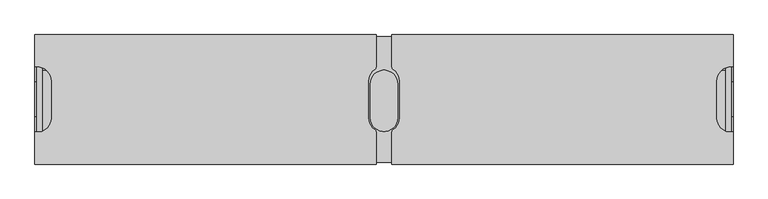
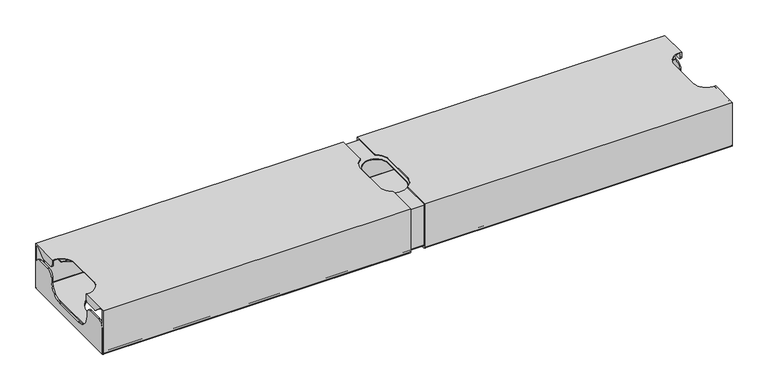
"""IFC4 building model written with IfcOpenShell, lengths in millimetres: furniture geometry, FREZZA_POP AD_Cable tray_for bench desk : Structure_ZGBI - Embossed White."""

from ifc_helpers import new_model, si_unit, frame, origin, place, context, project, spatial, polyline, circle_curve, source, transform, mapped, element, save
from ifc_brep_helpers import plane_surface, cylinder_surface, revolved_surface, advanced_brep


def furniture_ec0e8264(model_context):
    return source(origin(), model_context, "Body", "AdvancedBrep", [
        advanced_brep(
        [(440.0, 52.5, 432.7), (440.0, 52.5, 364.2), (440.0, 50.0, 361.7), (440.0, -129.0, 361.7), (440.0, -131.5, 364.2), (440.0, -131.5, 432.7), (440.0, -88.4089023, 432.7), (440.0, -88.4089023, 431.7), (440.0, -129.5, 431.7), (440.0, -129.5, 364.2), (440.0, -129.0, 363.7), (440.0, 50.0, 363.7), (440.0, 50.5, 364.2), (440.0, 50.5, 431.7), (440.0, 5.4089023, 431.7), (440.0, 5.4089023, 432.7), (1440.0, -131.5, 432.7), (1440.0, -131.5, 364.2), (1440.0, -129.0, 361.7), (1440.0, 50.0, 361.7), (1440.0, 52.5, 364.2), (1440.0, 52.5, 432.7), (1440.0, 5.4089023, 432.7), (1440.0, 5.4089023, 431.7), (1440.0, 50.5, 431.7), (1440.0, 50.5, 364.2), (1440.0, 50.0, 363.7), (1440.0, -129.0, 363.7), (1440.0, -129.5, 364.2), (1440.0, -129.5, 431.7), (1440.0, -88.4089023, 431.7), (1440.0, -88.4089023, 432.7), (1438.1818182, -86.4171839, 432.7), (1420.0, -66.5, 432.7), (1420.0, -16.5, 432.7), (1438.1818182, 3.4171839, 432.7), (441.8181818, 3.4171839, 432.7), (460.0, -16.5, 432.7), (460.0, -66.5, 432.7), (441.8181818, -86.4171839, 432.7), (920.0, -66.5, 432.7), (920.0, -16.5, 432.7), (960.0, -16.5, 432.7), (960.0, -66.5, 432.7), (500.0, 0.5, 361.7), (500.0, -79.5, 361.7), (1380.0, -79.5, 361.7), (1380.0, 0.5, 361.7), (1438.1818182, 3.4171839, 431.7), (1420.0, -16.5, 431.7), (1420.0, -66.5, 431.7), (1438.1818182, -86.4171839, 431.7), (441.8181818, -86.4171839, 431.7), (460.0, -66.5, 431.7), (460.0, -16.5, 431.7), (441.8181818, 3.4171839, 431.7), (920.0, -16.5, 431.7), (920.0, -66.5, 431.7), (960.0, -66.5, 431.7), (960.0, -16.5, 431.7), (500.0, -79.5, 363.7), (500.0, 0.5, 363.7), (1380.0, 0.5, 363.7), (1380.0, -79.5, 363.7)],
        [
            (0, 1),
            (1, 2, circle_curve(frame((440.0, 50.0, 364.2), z_axis=(-1.0, 0.0, 0.0), x_axis=(0.0, 1.0, 0.0)), 2.5)),
            (2, 3),
            (3, 4, circle_curve(frame((440.0, -129.0, 364.2), z_axis=(-1.0, 0.0, 0.0), x_axis=(0.0, 1.0, 0.0)), 2.5)),
            (4, 5),
            (5, 6),
            (6, 7),
            (7, 8),
            (8, 9),
            (9, 10, circle_curve(frame((440.0, -129.0, 364.2), z_axis=(1.0, 0.0, 0.0), x_axis=(0.0, 1.0, 0.0)), 0.5)),
            (10, 11),
            (11, 12, circle_curve(frame((440.0, 50.0, 364.2), z_axis=(1.0, 0.0, 0.0), x_axis=(0.0, 1.0, 0.0)), 0.5)),
            (12, 13),
            (13, 14),
            (14, 15),
            (15, 0),
            (16, 17),
            (17, 18, circle_curve(frame((1440.0, -129.0, 364.2), z_axis=(1.0, 0.0, 0.0), x_axis=(0.0, 1.0, 0.0)), 2.5)),
            (18, 19),
            (19, 20, circle_curve(frame((1440.0, 50.0, 364.2), z_axis=(1.0, 0.0, 0.0), x_axis=(0.0, 1.0, 0.0)), 2.5)),
            (20, 21),
            (21, 22),
            (22, 23),
            (23, 24),
            (24, 25),
            (25, 26, circle_curve(frame((1440.0, 50.0, 364.2), z_axis=(-1.0, 0.0, 0.0), x_axis=(0.0, 1.0, 0.0)), 0.5)),
            (26, 27),
            (27, 28, circle_curve(frame((1440.0, -129.0, 364.2), z_axis=(-1.0, 0.0, 0.0), x_axis=(0.0, 1.0, 0.0)), 0.5)),
            (28, 29),
            (29, 30),
            (30, 31),
            (31, 16),
            (5, 16),
            (31, 32, circle_curve(frame((1438.0, -88.4089023, 432.7), z_axis=(0.0, 0.0, 1.0), x_axis=(-1.0, 0.0, 0.0)), 2.0)),
            (32, 33, circle_curve(frame((1440.0, -66.5, 432.7), z_axis=(0.0, 0.0, -1.0), x_axis=(-1.0, 0.0, 0.0)), 20.0)),
            (33, 34),
            (34, 35, circle_curve(frame((1440.0, -16.5, 432.7), z_axis=(0.0, 0.0, -1.0), x_axis=(-1.0, 0.0, 0.0)), 20.0)),
            (35, 22, circle_curve(frame((1438.0, 5.4089023, 432.7), z_axis=(0.0, 0.0, 1.0), x_axis=(-1.0, 0.0, 0.0)), 2.0)),
            (21, 0),
            (15, 36, circle_curve(frame((442.0, 5.4089023, 432.7), z_axis=(0.0, 0.0, 1.0), x_axis=(-1.0, 0.0, 0.0)), 2.0)),
            (36, 37, circle_curve(frame((440.0, -16.5, 432.7), z_axis=(0.0, 0.0, -1.0), x_axis=(-1.0, 0.0, 0.0)), 20.0)),
            (37, 38),
            (38, 39, circle_curve(frame((440.0, -66.5, 432.7), z_axis=(0.0, 0.0, -1.0), x_axis=(-1.0, 0.0, 0.0)), 20.0)),
            (39, 6, circle_curve(frame((442.0, -88.4089023, 432.7), z_axis=(0.0, 0.0, 1.0), x_axis=(-1.0, 0.0, 0.0)), 2.0)),
            (40, 41),
            (41, 42, circle_curve(frame((940.0, -16.5, 432.7), z_axis=(0.0, 0.0, -1.0), x_axis=(-1.0, 0.0, 0.0)), 20.0)),
            (42, 43),
            (43, 40, circle_curve(frame((940.0, -66.5, 432.7), z_axis=(0.0, 0.0, -1.0), x_axis=(-1.0, 0.0, 0.0)), 20.0)),
            (20, 1),
            (19, 2),
            (18, 3),
            (44, 45, circle_curve(frame((500.0, -39.5, 361.7), z_axis=(0.0, 0.0, 1.0), x_axis=(-1.0, 0.0, 0.0)), 40.0)),
            (45, 44, circle_curve(frame((500.0, -39.5, 361.7), z_axis=(0.0, 0.0, 1.0), x_axis=(-1.0, 0.0, 0.0)), 40.0)),
            (46, 47, circle_curve(frame((1380.0, -39.5, 361.7), z_axis=(0.0, 0.0, 1.0), x_axis=(-1.0, 0.0, 0.0)), 40.0)),
            (47, 46, circle_curve(frame((1380.0, -39.5, 361.7), z_axis=(0.0, 0.0, 1.0), x_axis=(-1.0, 0.0, 0.0)), 40.0)),
            (17, 4),
            (13, 24),
            (23, 48, circle_curve(frame((1438.0, 5.4089023, 431.7), z_axis=(0.0, 0.0, -1.0), x_axis=(-1.0, 0.0, 0.0)), 2.0)),
            (48, 49, circle_curve(frame((1440.0, -16.5, 431.7), z_axis=(0.0, 0.0, 1.0), x_axis=(-1.0, 0.0, 0.0)), 20.0)),
            (49, 50),
            (50, 51, circle_curve(frame((1440.0, -66.5, 431.7), z_axis=(0.0, 0.0, 1.0), x_axis=(-1.0, 0.0, 0.0)), 20.0)),
            (51, 30, circle_curve(frame((1438.0, -88.4089023, 431.7), z_axis=(0.0, 0.0, -1.0), x_axis=(-1.0, 0.0, 0.0)), 2.0)),
            (29, 8),
            (7, 52, circle_curve(frame((442.0, -88.4089023, 431.7), z_axis=(0.0, 0.0, -1.0), x_axis=(-1.0, 0.0, 0.0)), 2.0)),
            (52, 53, circle_curve(frame((440.0, -66.5, 431.7), z_axis=(0.0, 0.0, 1.0), x_axis=(-1.0, 0.0, 0.0)), 20.0)),
            (53, 54),
            (54, 55, circle_curve(frame((440.0, -16.5, 431.7), z_axis=(0.0, 0.0, 1.0), x_axis=(-1.0, 0.0, 0.0)), 20.0)),
            (55, 14, circle_curve(frame((442.0, 5.4089023, 431.7), z_axis=(0.0, 0.0, -1.0), x_axis=(-1.0, 0.0, 0.0)), 2.0)),
            (56, 57),
            (57, 58, circle_curve(frame((940.0, -66.5, 431.7), z_axis=(0.0, 0.0, 1.0), x_axis=(-1.0, 0.0, 0.0)), 20.0)),
            (58, 59),
            (59, 56, circle_curve(frame((940.0, -16.5, 431.7), z_axis=(0.0, 0.0, 1.0), x_axis=(-1.0, 0.0, 0.0)), 20.0)),
            (28, 9),
            (27, 10),
            (26, 11),
            (60, 61, circle_curve(frame((500.0, -39.5, 363.7), z_axis=(0.0, 0.0, -1.0), x_axis=(-1.0, 0.0, 0.0)), 40.0)),
            (61, 60, circle_curve(frame((500.0, -39.5, 363.7), z_axis=(0.0, 0.0, -1.0), x_axis=(-1.0, 0.0, 0.0)), 40.0)),
            (62, 63, circle_curve(frame((1380.0, -39.5, 363.7), z_axis=(0.0, 0.0, -1.0), x_axis=(-1.0, 0.0, 0.0)), 40.0)),
            (63, 62, circle_curve(frame((1380.0, -39.5, 363.7), z_axis=(0.0, 0.0, -1.0), x_axis=(-1.0, 0.0, 0.0)), 40.0)),
            (25, 12),
            (40, 57),
            (56, 41),
            (43, 58),
            (42, 59),
            (32, 51),
            (50, 33),
            (35, 48),
            (34, 49),
            (37, 54),
            (53, 38),
            (36, 55),
            (39, 52),
            (60, 45),
            (44, 61),
            (62, 47),
            (46, 63),
        ],
        [
            plane_surface(frame((440.0, -39.5, 436.2), z_axis=(-1.0, 0.0, 0.0), x_axis=(0.0, 0.0, 1.0))),
            plane_surface(frame((1440.0, -39.5, 436.2), z_axis=(1.0, 0.0, 0.0), x_axis=(0.0, 0.0, 1.0))),
            plane_surface(frame((440.0, -131.5, 432.7), z_axis=(0.0, 0.0, 1.0), x_axis=(1.0, 0.0, 0.0))),
            plane_surface(frame((440.0, 52.5, 432.7), z_axis=(0.0, 1.0, 0.0), x_axis=(1.0, 0.0, 0.0))),
            cylinder_surface(frame((440.0, 50.0, 364.2), z_axis=(-1.0, 0.0, 0.0), x_axis=(0.0, 1.0, 0.0)), 2.5),
            plane_surface(frame((440.0, 50.0, 361.7), z_axis=(0.0, 0.0, -1.0), x_axis=(1.0, 0.0, 0.0))),
            cylinder_surface(frame((440.0, -129.0, 364.2), z_axis=(-1.0, 0.0, 0.0), x_axis=(0.0, 1.0, 0.0)), 2.5),
            plane_surface(frame((440.0, -131.5, 364.2), z_axis=(0.0, -1.0, 0.0), x_axis=(1.0, 0.0, 0.0))),
            plane_surface(frame((440.0, 50.5, 431.7), z_axis=(0.0, 0.0, -1.0), x_axis=(1.0, 0.0, 0.0))),
            plane_surface(frame((440.0, -129.5, 431.7), z_axis=(0.0, 1.0, 0.0), x_axis=(1.0, 0.0, 0.0))),
            revolved_surface(polyline([(1440.0, -128.5, 364.2), (440.0, -128.5, 364.2)]), (440.0, -129.0, 364.2), (1.0, 0.0, 0.0)),
            plane_surface(frame((440.0, -129.0, 363.7), z_axis=(0.0, 0.0, 1.0), x_axis=(1.0, 0.0, 0.0))),
            revolved_surface(polyline([(1440.0, 50.5, 364.2), (440.0, 50.5, 364.2)]), (440.0, 50.0, 364.2), (1.0, 0.0, 0.0)),
            plane_surface(frame((440.0, 50.5, 364.2), z_axis=(0.0, -1.0, 0.0), x_axis=(1.0, 0.0, 0.0))),
            plane_surface(frame((920.0, -16.5, 432.7), z_axis=(1.0, 0.0, 0.0), x_axis=(0.0, 0.0, -1.0))),
            revolved_surface(polyline([(920.0, -66.5, 432.7), (920.0, -66.5, 431.7)]), (940.0, -66.5, 431.7), (0.0, 0.0, 1.0)),
            plane_surface(frame((960.0, -66.5, 432.7), z_axis=(-1.0, 0.0, 0.0), x_axis=(0.0, 0.0, -1.0))),
            revolved_surface(polyline([(920.0, -16.5, 432.7), (920.0, -16.5, 431.7)]), (940.0, -16.5, 431.7), (0.0, 0.0, 1.0)),
            revolved_surface(polyline([(1420.0, -66.5, 432.7), (1420.0, -66.5, 431.7)]), (1440.0, -66.5, 436.2), (0.0, 0.0, 1.0)),
            cylinder_surface(frame((1438.0, -88.4089023, 436.2), z_axis=(0.0, 0.0, -1.0), x_axis=(-1.0, 0.0, 0.0)), 2.0),
            cylinder_surface(frame((1438.0, 5.4089023, 436.2), z_axis=(0.0, 0.0, -1.0), x_axis=(-1.0, 0.0, 0.0)), 2.0),
            revolved_surface(polyline([(1420.0, -16.5, 432.7), (1420.0, -16.5, 431.7)]), (1440.0, -16.5, 436.2), (0.0, 0.0, 1.0)),
            plane_surface(frame((1420.0, -16.5, 432.7), z_axis=(1.0, 0.0, 0.0), x_axis=(0.0, 0.0, -1.0))),
            plane_surface(frame((460.0, -66.5, 432.7), z_axis=(-1.0, 0.0, 0.0), x_axis=(0.0, 0.0, -1.0))),
            revolved_surface(polyline([(420.0, -16.5, 432.7), (420.0, -16.5, 431.7)]), (440.0, -16.5, 436.2), (0.0, 0.0, 1.0)),
            cylinder_surface(frame((442.0, 5.4089023, 436.2), z_axis=(0.0, 0.0, -1.0), x_axis=(-1.0, 0.0, 0.0)), 2.0),
            cylinder_surface(frame((442.0, -88.4089023, 436.2), z_axis=(0.0, 0.0, -1.0), x_axis=(-1.0, 0.0, 0.0)), 2.0),
            revolved_surface(polyline([(420.0, -66.5, 432.7), (420.0, -66.5, 431.7)]), (440.0, -66.5, 436.2), (0.0, 0.0, 1.0)),
            revolved_surface(polyline([(460.0, -39.5, 363.7), (460.0, -39.5, 361.7)]), (500.0, -39.5, 361.7), (0.0, 0.0, 1.0)),
            revolved_surface(polyline([(1340.0, -39.5, 363.7), (1340.0, -39.5, 361.7)]), (1380.0, -39.5, 436.2), (0.0, 0.0, 1.0)),
        ],
        [
            (0, [[1, 2, 3, 4, 5, 6, 7, 8, 9, 10, 11, 12, 13, 14, 15, 16]]),
            (1, [[17, 18, 19, 20, 21, 22, 23, 24, 25, 26, 27, 28, 29, 30, 31, 32]]),
            (2, [[33, -32, 34, 35, 36, 37, 38, -22, 39, -16, 40, 41, 42, 43, 44, -6], [45, 46, 47, 48]]),
            (3, [[-1, -39, -21, 49]]),
            (4, [[-2, -49, -20, 50]]),
            (5, [[-3, -50, -19, 51], [52, 53], [54, 55]]),
            (6, [[-4, -51, -18, 56]]),
            (7, [[-5, -56, -17, -33]]),
            (8, [[57, -24, 58, 59, 60, 61, 62, -30, 63, -8, 64, 65, 66, 67, 68, -14], [69, 70, 71, 72]]),
            (9, [[-9, -63, -29, 73]]),
            (10, [[-10, -73, -28, 74]]),
            (11, [[-11, -74, -27, 75], [76, 77], [78, 79]]),
            (12, [[-12, -75, -26, 80]]),
            (13, [[-13, -80, -25, -57]]),
            (14, [[81, -69, 82, -45]]),
            (15, [[-81, -48, 83, -70]]),
            (16, [[-83, -47, 84, -71]]),
            (17, [[-82, -72, -84, -46]]),
            (18, [[85, -61, 86, -35]]),
            (19, [[-85, -34, -31, -62]]),
            (20, [[87, -58, -23, -38]]),
            (21, [[-87, -37, 88, -59]]),
            (22, [[-86, -60, -88, -36]]),
            (23, [[89, -66, 90, -42]]),
            (24, [[-89, -41, 91, -67]]),
            (25, [[-91, -40, -15, -68]]),
            (26, [[92, -64, -7, -44]]),
            (27, [[-90, -65, -92, -43]]),
            (28, [[93, -52, 94, -76]]),
            (28, [[-93, -77, -94, -53]]),
            (29, [[95, -54, 96, -78]]),
            (29, [[-95, -79, -96, -55]]),
        ],
    ),
        advanced_brep(
        [(1449.5, 43.0, 414.7), (1449.5, 53.0, 404.7), (1449.5, 53.0, 361.7), (1449.5, -132.0, 361.7), (1449.5, -132.0, 404.7), (1449.5, -122.0, 414.7), (1449.5, -99.5, 414.7), (1449.5, -89.5, 404.7), (1449.5, -89.5, 399.2), (1449.5, -65.0, 374.7), (1449.5, -14.0, 374.7), (1449.5, 10.5, 399.2), (1449.5, 10.5, 404.7), (1449.5, 20.5, 414.7), (1449.5, 47.9785738, 435.2), (1449.5, 35.0716175, 424.3697778), (1449.5, 31.8576795, 423.2), (1449.5, 13.4785156, 423.2), (1449.5, 8.4785156, 428.2), (1449.5, 8.4785156, 435.2), (1449.5, -87.4785156, 428.2), (1449.5, -92.4785156, 423.2), (1449.5, -110.8576795, 423.2), (1449.5, -114.0716175, 424.3697778), (1449.5, -126.9785738, 435.2), (1449.5, -87.4785156, 435.2), (1451.5, 43.0, 414.7), (1451.5, 53.0, 404.7), (1451.5, 53.0, 361.7), (1451.5, -132.0, 361.7), (1451.5, -132.0, 404.7), (1451.5, -122.0, 414.7), (1451.5, -99.5, 414.7), (1451.5, -89.5, 404.7), (1451.5, -89.5, 399.2), (1451.5, -65.0, 374.7), (1451.5, -14.0, 374.7), (1451.5, 10.5, 399.2), (1451.5, 10.5, 404.7), (1451.5, 20.5, 414.7), (1451.5, 47.9785738, 435.2), (1451.5, 35.0716175, 424.3697778), (1451.5, 31.8576795, 423.2), (1451.5, 13.4785156, 423.2), (1451.5, 8.4785156, 428.2), (1451.5, 8.4785156, 436.2), (1448.4690524, 8.4785156, 436.2), (1448.4690524, 8.4785156, 435.2), (1451.5, -87.4785156, 428.2), (1447.170599, -87.4785156, 435.2), (1447.170599, -87.4785156, 436.2), (1451.5, -87.4785156, 436.2), (1451.5, -92.4785156, 423.2), (1451.5, -110.8576795, 423.2), (1451.5, -114.0716175, 424.3697778), (1451.5, -126.9785738, 435.2), (1426.9618953, -13.0238313, 436.2), (1426.9618953, -13.0238313, 435.2), (1426.9618953, -66.7365173, 435.2), (1426.9618953, -66.7365173, 436.2), (1451.5, -134.5, 436.2), (1451.5, -134.5, 362.2), (1451.5, -132.0, 359.7), (1451.5, 55.4854761, 359.7), (1451.5, 55.4854761, 436.2), (1451.5, 53.5, 435.2), (1451.5, 53.5, 362.2), (1451.5, -132.5, 362.2), (1451.5, -132.5, 435.2), (951.5, 55.4854761, 436.2), (951.5, 55.4854761, 359.7), (951.5, -132.0, 359.7), (951.5, -134.5, 362.2), (951.5, -134.5, 436.2), (951.5, -87.8674785, 436.2), (951.5, -87.8674785, 435.2), (951.5, -132.5, 435.2), (951.5, -132.5, 362.2), (951.5, -132.0, 361.7), (951.5, 53.0, 361.7), (951.5, 53.5, 362.2), (951.5, 53.5, 435.2), (951.5, 8.8246261, 435.2), (951.5, 8.8246261, 436.2), (1420.0, -39.5, 359.7), (1340.0, -39.5, 359.7), (953.6698113, 4.7027294, 436.2), (963.0, -13.0214262, 436.2), (963.0, -66.0214262, 436.2), (953.6698113, -83.7455818, 436.2), (1340.0, -39.5, 361.7), (1420.0, -39.5, 361.7), (953.6698113, -83.7455818, 435.2), (963.0, -66.0214262, 435.2), (963.0, -13.0214262, 435.2), (953.6698113, 4.7027294, 435.2)],
        [
            (0, 1, circle_curve(frame((1449.5, 43.0, 404.7), z_axis=(-1.0, 0.0, 0.0), x_axis=(0.0, 0.0, -1.0)), 10.0)),
            (1, 2),
            (2, 3),
            (3, 4),
            (4, 5, circle_curve(frame((1449.5, -122.0, 404.7), z_axis=(-1.0, 0.0, 0.0), x_axis=(0.0, 0.0, -1.0)), 10.0)),
            (5, 6),
            (6, 7, circle_curve(frame((1449.5, -99.5, 404.7), z_axis=(-1.0, 0.0, 0.0), x_axis=(0.0, 0.0, -1.0)), 10.0)),
            (7, 8),
            (8, 9, circle_curve(frame((1449.5, -65.0, 399.2), z_axis=(1.0, 0.0, 0.0), x_axis=(0.0, 0.0, -1.0)), 24.5)),
            (9, 10),
            (10, 11, circle_curve(frame((1449.5, -14.0, 399.2), z_axis=(1.0, 0.0, 0.0), x_axis=(0.0, 0.0, -1.0)), 24.5)),
            (11, 12),
            (12, 13, circle_curve(frame((1449.5, 20.5, 404.7), z_axis=(-1.0, 0.0, 0.0), x_axis=(0.0, 0.0, -1.0)), 10.0)),
            (13, 0),
            (14, 15),
            (15, 16, circle_curve(frame((1449.5, 31.8576795, 428.2), z_axis=(-1.0, 0.0, 0.0), x_axis=(0.0, 0.0, -1.0)), 5.0)),
            (16, 17),
            (17, 18, circle_curve(frame((1449.5, 13.4785156, 428.2), z_axis=(-1.0, 0.0, 0.0), x_axis=(0.0, 0.0, -1.0)), 5.0)),
            (18, 19),
            (19, 14),
            (20, 21, circle_curve(frame((1449.5, -92.4785156, 428.2), z_axis=(-1.0, 0.0, 0.0), x_axis=(0.0, 0.0, -1.0)), 5.0)),
            (21, 22),
            (22, 23, circle_curve(frame((1449.5, -110.8576795, 428.2), z_axis=(-1.0, 0.0, 0.0), x_axis=(0.0, 0.0, -1.0)), 5.0)),
            (23, 24),
            (24, 25),
            (25, 20),
            (0, 26),
            (26, 27, circle_curve(frame((1451.5, 43.0, 404.7), z_axis=(-1.0, 0.0, 0.0), x_axis=(0.0, 0.0, -1.0)), 10.0)),
            (27, 1),
            (27, 28),
            (28, 2),
            (3, 29),
            (29, 30),
            (30, 4),
            (30, 31, circle_curve(frame((1451.5, -122.0, 404.7), z_axis=(-1.0, 0.0, 0.0), x_axis=(0.0, 0.0, -1.0)), 10.0)),
            (31, 5),
            (31, 32),
            (32, 6),
            (32, 33, circle_curve(frame((1451.5, -99.5, 404.7), z_axis=(-1.0, 0.0, 0.0), x_axis=(0.0, 0.0, -1.0)), 10.0)),
            (33, 7),
            (33, 34),
            (34, 8),
            (34, 35, circle_curve(frame((1451.5, -65.0, 399.2), z_axis=(1.0, 0.0, 0.0), x_axis=(0.0, 0.0, -1.0)), 24.5)),
            (35, 9),
            (35, 36),
            (36, 10),
            (36, 37, circle_curve(frame((1451.5, -14.0, 399.2), z_axis=(1.0, 0.0, 0.0), x_axis=(0.0, 0.0, -1.0)), 24.5)),
            (37, 11),
            (37, 38),
            (38, 12),
            (38, 39, circle_curve(frame((1451.5, 20.5, 404.7), z_axis=(-1.0, 0.0, 0.0), x_axis=(0.0, 0.0, -1.0)), 10.0)),
            (39, 13),
            (39, 26),
            (14, 40),
            (40, 41),
            (41, 15),
            (41, 42, circle_curve(frame((1451.5, 31.8576795, 428.2), z_axis=(-1.0, 0.0, 0.0), x_axis=(0.0, 0.0, -1.0)), 5.0)),
            (42, 16),
            (42, 43),
            (43, 17),
            (43, 44, circle_curve(frame((1451.5, 13.4785156, 428.2), z_axis=(-1.0, 0.0, 0.0), x_axis=(0.0, 0.0, -1.0)), 5.0)),
            (44, 18),
            (44, 45),
            (45, 46),
            (46, 47),
            (47, 19),
            (48, 20),
            (25, 49),
            (49, 50),
            (50, 51),
            (51, 48),
            (48, 52, circle_curve(frame((1451.5, -92.4785156, 428.2), z_axis=(-1.0, 0.0, 0.0), x_axis=(0.0, 0.0, -1.0)), 5.0)),
            (52, 21),
            (52, 53),
            (53, 22),
            (53, 54, circle_curve(frame((1451.5, -110.8576795, 428.2), z_axis=(-1.0, 0.0, 0.0), x_axis=(0.0, 0.0, -1.0)), 5.0)),
            (54, 23),
            (54, 55),
            (55, 24),
            (56, 57),
            (57, 47, circle_curve(frame((1448.4690524, -13.0238313, 435.2), z_axis=(0.0, 0.0, -1.0), x_axis=(1.0, 0.0, 0.0)), 21.5071571)),
            (46, 56, circle_curve(frame((1448.4690524, -13.0238313, 436.2), z_axis=(0.0, 0.0, 1.0), x_axis=(1.0, 0.0, 0.0)), 21.5071571)),
            (49, 58, circle_curve(frame((1448.45, -66.0214262, 435.2), z_axis=(0.0, 0.0, -1.0), x_axis=(1.0, 0.0, 0.0)), 21.5)),
            (58, 59),
            (59, 50, circle_curve(frame((1448.45, -66.0214262, 436.2), z_axis=(0.0, 0.0, 1.0), x_axis=(1.0, 0.0, 0.0)), 21.5)),
            (56, 59),
            (58, 57),
            (60, 61),
            (61, 62, circle_curve(frame((1451.5, -132.0, 362.2), z_axis=(1.0, 0.0, 0.0), x_axis=(0.0, 0.0, -1.0)), 2.5)),
            (62, 63),
            (63, 64),
            (64, 45),
            (40, 65),
            (65, 66),
            (66, 28, circle_curve(frame((1451.5, 53.0, 362.2), z_axis=(-1.0, 0.0, 0.0), x_axis=(0.0, 0.0, -1.0)), 0.5)),
            (29, 67, circle_curve(frame((1451.5, -132.0, 362.2), z_axis=(-1.0, 0.0, 0.0), x_axis=(0.0, 0.0, -1.0)), 0.5)),
            (67, 68),
            (68, 55),
            (51, 60),
            (69, 70),
            (70, 71),
            (71, 72, circle_curve(frame((951.5, -132.0, 362.2), z_axis=(-1.0, 0.0, 0.0), x_axis=(0.0, 0.0, -1.0)), 2.5)),
            (72, 73),
            (73, 74),
            (74, 75),
            (75, 76),
            (76, 77),
            (77, 78, circle_curve(frame((951.5, -132.0, 362.2), z_axis=(1.0, 0.0, 0.0), x_axis=(0.0, 0.0, -1.0)), 0.5)),
            (78, 79),
            (79, 80, circle_curve(frame((951.5, 53.0, 362.2), z_axis=(1.0, 0.0, 0.0), x_axis=(0.0, 0.0, -1.0)), 0.5)),
            (80, 81),
            (81, 82),
            (82, 83),
            (83, 69),
            (63, 70),
            (69, 64),
            (62, 71),
            (84, 85, circle_curve(frame((1380.0, -39.5, 359.7), z_axis=(0.0, 0.0, 1.0), x_axis=(1.0, 0.0, 0.0)), 40.0)),
            (85, 84, circle_curve(frame((1380.0, -39.5, 359.7), z_axis=(0.0, 0.0, 1.0), x_axis=(1.0, 0.0, 0.0)), 40.0)),
            (61, 72),
            (60, 73),
            (83, 86, circle_curve(frame((956.5, 8.8246261, 436.2), z_axis=(0.0, 0.0, 1.0), x_axis=(1.0, 0.0, 0.0)), 5.0)),
            (86, 87, circle_curve(frame((941.5, -13.0214262, 436.2), z_axis=(0.0, 0.0, -1.0), x_axis=(1.0, 0.0, 0.0)), 21.5)),
            (87, 88),
            (88, 89, circle_curve(frame((941.5, -66.0214262, 436.2), z_axis=(0.0, 0.0, -1.0), x_axis=(1.0, 0.0, 0.0)), 21.5)),
            (89, 74, circle_curve(frame((956.5, -87.8674785, 436.2), z_axis=(0.0, 0.0, 1.0), x_axis=(1.0, 0.0, 0.0)), 5.0)),
            (67, 77),
            (76, 68),
            (3, 78),
            (2, 79),
            (90, 91, circle_curve(frame((1380.0, -39.5, 361.7), z_axis=(0.0, 0.0, -1.0), x_axis=(1.0, 0.0, 0.0)), 40.0)),
            (91, 90, circle_curve(frame((1380.0, -39.5, 361.7), z_axis=(0.0, 0.0, -1.0), x_axis=(1.0, 0.0, 0.0)), 40.0)),
            (66, 80),
            (65, 81),
            (75, 92, circle_curve(frame((956.5, -87.8674785, 435.2), z_axis=(0.0, 0.0, -1.0), x_axis=(1.0, 0.0, 0.0)), 5.0)),
            (92, 93, circle_curve(frame((941.5, -66.0214262, 435.2), z_axis=(0.0, 0.0, 1.0), x_axis=(1.0, 0.0, 0.0)), 21.5)),
            (93, 94),
            (94, 95, circle_curve(frame((941.5, -13.0214262, 435.2), z_axis=(0.0, 0.0, 1.0), x_axis=(1.0, 0.0, 0.0)), 21.5)),
            (95, 82, circle_curve(frame((956.5, 8.8246261, 435.2), z_axis=(0.0, 0.0, -1.0), x_axis=(1.0, 0.0, 0.0)), 5.0)),
            (90, 85),
            (84, 91),
            (88, 93),
            (92, 89),
            (95, 86),
            (94, 87),
        ],
        [
            plane_surface(frame((1449.5, 43.0, 414.7), z_axis=(-1.0, 0.0, 0.0), x_axis=(0.0, 1.0, 0.0))),
            cylinder_surface(frame((1449.5, 43.0, 404.7), z_axis=(1.0, 0.0, 0.0), x_axis=(0.0, 0.0, -1.0)), 10.0),
            plane_surface(frame((1451.5, 53.0, 361.7), z_axis=(0.0, 1.0, 0.0), x_axis=(-1.0, 0.0, 0.0))),
            plane_surface(frame((1451.5, -132.0, 404.7), z_axis=(0.0, -1.0, 0.0), x_axis=(-1.0, 0.0, 0.0))),
            cylinder_surface(frame((1449.5, -122.0, 404.7), z_axis=(1.0, 0.0, 0.0), x_axis=(0.0, 0.0, -1.0)), 10.0),
            plane_surface(frame((1451.5, -99.5, 414.7), z_axis=(0.0, 0.0, 1.0), x_axis=(-1.0, 0.0, 0.0))),
            cylinder_surface(frame((1449.5, -99.5, 404.7), z_axis=(1.0, 0.0, 0.0), x_axis=(0.0, 0.0, -1.0)), 10.0),
            plane_surface(frame((1451.5, -89.5, 399.2), z_axis=(0.0, 1.0, 0.0), x_axis=(-1.0, 0.0, 0.0))),
            revolved_surface(polyline([(1449.5, -65.0, 374.7), (1451.5, -65.0, 374.7)]), (1449.5, -65.0, 399.2), (-1.0, 0.0, 0.0)),
            plane_surface(frame((1451.5, -14.0, 374.7), z_axis=(0.0, 0.0, 1.0), x_axis=(-1.0, 0.0, 0.0))),
            revolved_surface(polyline([(1449.5, -14.0, 374.7), (1451.5, -14.0, 374.7)]), (1449.5, -14.0, 399.2), (-1.0, 0.0, 0.0)),
            plane_surface(frame((1451.5, 10.5, 404.7), z_axis=(0.0, -1.0, 0.0), x_axis=(-1.0, 0.0, 0.0))),
            cylinder_surface(frame((1449.5, 20.5, 404.7), z_axis=(1.0, 0.0, 0.0), x_axis=(0.0, 0.0, -1.0)), 10.0),
            plane_surface(frame((1451.5, 43.0, 414.7), z_axis=(0.0, 0.0, 1.0), x_axis=(-1.0, 0.0, 0.0))),
            plane_surface(frame((1451.5, 35.0716175, 424.3697778), z_axis=(0.0, 0.6427876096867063, -0.7660444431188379), x_axis=(-1.0, 0.0, 0.0))),
            cylinder_surface(frame((1451.5, 31.8576795, 428.2), z_axis=(1.0, 0.0, 0.0), x_axis=(0.0, 0.0, -1.0)), 5.0),
            plane_surface(frame((1451.5, 13.4785156, 423.2), z_axis=(0.0, 0.0, -1.0), x_axis=(-1.0, 0.0, 0.0))),
            cylinder_surface(frame((1451.5, 13.4785156, 428.2), z_axis=(1.0, 0.0, 0.0), x_axis=(0.0, 0.0, -1.0)), 5.0),
            plane_surface(frame((1451.5, 8.4785156, 436.2), z_axis=(0.0, -1.0, 0.0), x_axis=(-1.0, 0.0, 0.0))),
            plane_surface(frame((1451.5, -87.4785156, 428.2), z_axis=(0.0, 1.0, 0.0), x_axis=(-1.0, 0.0, 0.0))),
            cylinder_surface(frame((1451.5, -92.4785156, 428.2), z_axis=(1.0, 0.0, 0.0), x_axis=(0.0, 0.0, -1.0)), 5.0),
            plane_surface(frame((1451.5, -110.8576795, 423.2), z_axis=(0.0, 0.0, -1.0), x_axis=(-1.0, 0.0, 0.0))),
            cylinder_surface(frame((1451.5, -110.8576795, 428.2), z_axis=(1.0, 0.0, 0.0), x_axis=(0.0, 0.0, -1.0)), 5.0),
            plane_surface(frame((1451.5, -126.9785738, 435.2), z_axis=(0.0, -0.6427876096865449, -0.7660444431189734), x_axis=(-1.0, 0.0, 0.0))),
            revolved_surface(polyline([(1469.9762095, -13.0238313, 436.2), (1469.9762095, -13.0238313, 435.2)]), (1448.4690524, -13.0238313, 435.2), (0.0, 0.0, 1.0)),
            revolved_surface(polyline([(1469.95, -66.0214262, 436.2), (1469.95, -66.0214262, 435.2)]), (1448.45, -66.0214262, 435.2), (0.0, 0.0, 1.0)),
            plane_surface(frame((1426.9618953, -13.0238313, 436.2), z_axis=(1.0, 0.0, 0.0), x_axis=(0.0, 0.0, -1.0))),
            plane_surface(frame((1451.5, -134.5, 436.2), z_axis=(1.0, 0.0, 0.0), x_axis=(0.0, -1.0, 0.0))),
            plane_surface(frame((951.5, -134.5, 436.2), z_axis=(-1.0, 0.0, 0.0), x_axis=(0.0, 1.0, 0.0))),
            plane_surface(frame((1451.5, 55.4854761, 359.7), z_axis=(0.0, 1.0, 0.0), x_axis=(-1.0, 0.0, 0.0))),
            plane_surface(frame((1451.5, -132.0, 359.7), z_axis=(0.0, 0.0, -1.0), x_axis=(-1.0, 0.0, 0.0))),
            cylinder_surface(frame((951.5, -132.0, 362.2), z_axis=(1.0, 0.0, 0.0), x_axis=(0.0, 0.0, -1.0)), 2.5),
            plane_surface(frame((1451.5, -134.5, 436.2), z_axis=(0.0, -1.0, 0.0), x_axis=(-1.0, 0.0, 0.0))),
            plane_surface(frame((1451.5, 55.4854761, 436.2), z_axis=(0.0, 0.0, 1.0), x_axis=(-1.0, 0.0, 0.0))),
            plane_surface(frame((1451.5, -132.5, 362.2), z_axis=(0.0, 1.0, 0.0), x_axis=(-1.0, 0.0, 0.0))),
            revolved_surface(polyline([(951.5, -132.0, 361.7), (1451.5, -132.0, 361.7)]), (1451.5, -132.0, 362.2), (-1.0, 0.0, 0.0)),
            plane_surface(frame((1451.5, 53.0, 361.7), z_axis=(0.0, 3.348839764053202e-12, 1.0), x_axis=(-1.0, 0.0, 0.0))),
            revolved_surface(polyline([(951.5, 53.0, 361.7), (1451.5, 53.0, 361.7)]), (1451.5, 53.0, 362.2), (-1.0, 0.0, 0.0)),
            plane_surface(frame((1451.5, 53.5, 435.2), z_axis=(0.0, -1.0, 0.0), x_axis=(-1.0, 0.0, 0.0))),
            plane_surface(frame((1451.5, -132.5, 435.2), z_axis=(0.0, 0.0, -1.0), x_axis=(-1.0, 0.0, 0.0))),
            revolved_surface(polyline([(1420.0, -39.5, 361.7), (1420.0, -39.5, 359.7)]), (1380.0, -39.5, 359.7), (0.0, 0.0, 1.0)),
            revolved_surface(polyline([(963.0, -66.0214262, 436.2), (963.0, -66.0214262, 435.2)]), (941.5, -66.0214262, 435.2), (0.0, 0.0, 1.0)),
            cylinder_surface(frame((956.5, -87.8674785, 435.2), z_axis=(0.0, 0.0, -1.0), x_axis=(1.0, 0.0, 0.0)), 5.0),
            cylinder_surface(frame((956.5, 8.8246261, 435.2), z_axis=(0.0, 0.0, -1.0), x_axis=(1.0, 0.0, 0.0)), 5.0),
            revolved_surface(polyline([(963.0, -13.0214262, 436.2), (963.0, -13.0214262, 435.2)]), (941.5, -13.0214262, 435.2), (0.0, 0.0, 1.0)),
            plane_surface(frame((963.0, -66.0214262, 436.2), z_axis=(-1.0, 0.0, 0.0), x_axis=(0.0, 0.0, -1.0))),
        ],
        [
            (0, [[1, 2, 3, 4, 5, 6, 7, 8, 9, 10, 11, 12, 13, 14]]),
            (0, [[15, 16, 17, 18, 19, 20]]),
            (0, [[21, 22, 23, 24, 25, 26]]),
            (1, [[-1, 27, 28, 29]]),
            (2, [[-2, -29, 30, 31]]),
            (3, [[-4, 32, 33, 34]]),
            (4, [[-5, -34, 35, 36]]),
            (5, [[-6, -36, 37, 38]]),
            (6, [[-7, -38, 39, 40]]),
            (7, [[-8, -40, 41, 42]]),
            (8, [[-9, -42, 43, 44]]),
            (9, [[-10, -44, 45, 46]]),
            (10, [[-11, -46, 47, 48]]),
            (11, [[-12, -48, 49, 50]]),
            (12, [[-13, -50, 51, 52]]),
            (13, [[-14, -52, 53, -27]]),
            (14, [[-15, 54, 55, 56]]),
            (15, [[-16, -56, 57, 58]]),
            (16, [[-17, -58, 59, 60]]),
            (17, [[-18, -60, 61, 62]]),
            (18, [[-62, 63, 64, 65, 66, -19]]),
            (19, [[67, -26, 68, 69, 70, 71]]),
            (20, [[-21, -67, 72, 73]]),
            (21, [[-22, -73, 74, 75]]),
            (22, [[-23, -75, 76, 77]]),
            (23, [[-24, -77, 78, 79]]),
            (24, [[80, 81, -65, 82]]),
            (25, [[-69, 83, 84, 85]]),
            (26, [[-80, 86, -84, 87]]),
            (27, [[88, 89, 90, 91, 92, -63, -61, -59, -57, -55, 93, 94, 95, -30, -28, -53, -51, -49, -47, -45, -43, -41, -39, -37, -35, -33, 96, 97, 98, -78, -76, -74, -72, -71, 99]]),
            (28, [[100, 101, 102, 103, 104, 105, 106, 107, 108, 109, 110, 111, 112, 113, 114]]),
            (29, [[-91, 115, -100, 116]]),
            (30, [[-90, 117, -101, -115], [118, 119]]),
            (31, [[-89, 120, -102, -117]]),
            (32, [[-88, 121, -103, -120]]),
            (33, [[-116, -114, 122, 123, 124, 125, 126, -104, -121, -99, -70, -85, -86, -82, -64, -92]]),
            (34, [[-97, 127, -107, 128]]),
            (35, [[-96, -32, 129, -108, -127]]),
            (36, [[-109, -129, -3, 130], [131, 132]]),
            (37, [[-95, 133, -110, -130, -31]]),
            (38, [[-94, 134, -111, -133]]),
            (39, [[-128, -106, 135, 136, 137, 138, 139, -112, -134, -93, -54, -20, -66, -81, -87, -83, -68, -25, -79, -98]]),
            (40, [[140, -118, 141, -131]]),
            (40, [[-140, -132, -141, -119]]),
            (41, [[142, -136, 143, -125]]),
            (42, [[-143, -135, -105, -126]]),
            (43, [[144, -122, -113, -139]]),
            (44, [[-144, -138, 145, -123]]),
            (45, [[-142, -124, -145, -137]]),
        ],
    ),
        advanced_brep(
        [(430.5, 43.0, 414.7), (430.5, 20.5, 414.7), (430.5, 10.5, 404.7), (430.5, 10.5, 399.2), (430.5, -14.0, 374.7), (430.5, -65.0, 374.7), (430.5, -89.5, 399.2), (430.5, -89.5, 404.7), (430.5, -99.5, 414.7), (430.5, -122.0, 414.7), (430.5, -132.0, 404.7), (430.5, -132.0, 361.7), (430.5, 53.0, 361.7), (430.5, 53.0, 404.7), (430.5, 8.4785156, 428.2), (430.5, 13.4785156, 423.2), (430.5, 31.8576795, 423.2), (430.5, 35.0716175, 424.3697778), (430.5, 47.9785738, 435.2), (430.5, 8.4833258, 435.2), (430.5, -126.9785738, 435.2), (430.5, -114.0716175, 424.3697778), (430.5, -110.8576795, 423.2), (430.5, -92.4785156, 423.2), (430.5, -87.4785156, 428.2), (430.5, -87.4833258, 435.2), (428.5, 53.0, 404.7), (428.5, 43.0, 414.7), (428.5, 53.0, 361.7), (428.5, -132.0, 404.7), (428.5, -132.0, 361.7), (428.5, -122.0, 414.7), (428.5, -99.5, 414.7), (428.5, -89.5, 404.7), (428.5, -89.5, 399.2), (428.5, -65.0, 374.7), (428.5, -14.0, 374.7), (428.5, 10.5, 399.2), (428.5, 10.5, 404.7), (428.5, 20.5, 414.7), (428.5, 35.0716175, 424.3697778), (428.5, 47.9785738, 435.2), (428.5, 31.8576795, 423.2), (428.5, 13.4785156, 423.2), (428.5, 8.4785156, 428.2), (428.5, -92.4785156, 423.2), (428.5, -87.4785156, 428.2), (428.5, -110.8576795, 423.2), (428.5, -114.0716175, 424.3697778), (428.5, -126.9785738, 435.2), (428.5, 55.4854761, 436.2), (428.5, 55.4854761, 359.7), (428.5, -132.0, 359.7), (428.5, -134.5, 362.2), (428.5, -134.5, 436.2), (428.5, -87.4833258, 436.2), (428.5, -132.5, 435.2), (428.5, -132.5, 362.2), (428.5, 53.5, 362.2), (428.5, 53.5, 435.2), (428.5, 8.4833258, 436.2), (928.5, -134.5, 436.2), (928.5, -134.5, 362.2), (928.5, -132.0, 359.7), (928.5, 55.4854761, 359.7), (928.5, 55.4854761, 436.2), (928.5, 8.8246261, 436.2), (928.5, 8.8246261, 435.2), (928.5, 53.5, 435.2), (928.5, 53.5, 362.2), (928.5, 53.0, 361.7), (928.5, -132.0, 361.7), (928.5, -132.5, 362.2), (928.5, -132.5, 435.2), (928.5, -87.8674785, 435.2), (928.5, -87.8674785, 436.2), (540.0, -39.5, 359.7), (460.0, -39.5, 359.7), (431.5309476, 8.4833258, 436.2), (453.0381047, -13.0238313, 436.2), (453.0381047, -66.7365173, 436.2), (432.829401, -87.4833258, 436.2), (926.3301887, -83.7455818, 436.2), (917.0, -66.0214262, 436.2), (917.0, -13.0214262, 436.2), (926.3301887, 4.7027294, 436.2), (460.0, -39.5, 361.7), (540.0, -39.5, 361.7), (432.829401, -87.4833258, 435.2), (453.0381047, -66.7365173, 435.2), (453.0381047, -13.0238313, 435.2), (431.5309476, 8.4833258, 435.2), (926.3301887, 4.7027294, 435.2), (917.0, -13.0214262, 435.2), (917.0, -66.0214262, 435.2), (926.3301887, -83.7455818, 435.2)],
        [
            (0, 1),
            (1, 2, circle_curve(frame((430.5, 20.5, 404.7), z_axis=(1.0, 0.0, 0.0), x_axis=(0.0, 0.0, -1.0)), 10.0)),
            (2, 3),
            (3, 4, circle_curve(frame((430.5, -14.0, 399.2), z_axis=(-1.0, 0.0, 0.0), x_axis=(0.0, 0.0, -1.0)), 24.5)),
            (4, 5),
            (5, 6, circle_curve(frame((430.5, -65.0, 399.2), z_axis=(-1.0, 0.0, 0.0), x_axis=(0.0, 0.0, -1.0)), 24.5)),
            (6, 7),
            (7, 8, circle_curve(frame((430.5, -99.5, 404.7), z_axis=(1.0, 0.0, 0.0), x_axis=(0.0, 0.0, -1.0)), 10.0)),
            (8, 9),
            (9, 10, circle_curve(frame((430.5, -122.0, 404.7), z_axis=(1.0, 0.0, 0.0), x_axis=(0.0, 0.0, -1.0)), 10.0)),
            (10, 11),
            (11, 12),
            (12, 13),
            (13, 0, circle_curve(frame((430.5, 43.0, 404.7), z_axis=(1.0, 0.0, 0.0), x_axis=(0.0, 0.0, -1.0)), 10.0)),
            (14, 15, circle_curve(frame((430.5, 13.4785156, 428.2), z_axis=(1.0, 0.0, 0.0), x_axis=(0.0, 0.0, -1.0)), 5.0)),
            (15, 16),
            (16, 17, circle_curve(frame((430.5, 31.8576795, 428.2), z_axis=(1.0, 0.0, 0.0), x_axis=(0.0, 0.0, -1.0)), 5.0)),
            (17, 18),
            (18, 19),
            (19, 14),
            (20, 21),
            (21, 22, circle_curve(frame((430.5, -110.8576795, 428.2), z_axis=(1.0, 0.0, 0.0), x_axis=(0.0, 0.0, -1.0)), 5.0)),
            (22, 23),
            (23, 24, circle_curve(frame((430.5, -92.4785156, 428.2), z_axis=(1.0, 0.0, 0.0), x_axis=(0.0, 0.0, -1.0)), 5.0)),
            (24, 25),
            (25, 20),
            (13, 26),
            (26, 27, circle_curve(frame((428.5, 43.0, 404.7), z_axis=(1.0, 0.0, 0.0), x_axis=(0.0, 0.0, -1.0)), 10.0)),
            (27, 0),
            (12, 28),
            (28, 26),
            (10, 29),
            (29, 30),
            (30, 11),
            (9, 31),
            (31, 29, circle_curve(frame((428.5, -122.0, 404.7), z_axis=(1.0, 0.0, 0.0), x_axis=(0.0, 0.0, -1.0)), 10.0)),
            (8, 32),
            (32, 31),
            (7, 33),
            (33, 32, circle_curve(frame((428.5, -99.5, 404.7), z_axis=(1.0, 0.0, 0.0), x_axis=(0.0, 0.0, -1.0)), 10.0)),
            (6, 34),
            (34, 33),
            (5, 35),
            (35, 34, circle_curve(frame((428.5, -65.0, 399.2), z_axis=(-1.0, 0.0, 0.0), x_axis=(0.0, 0.0, -1.0)), 24.5)),
            (4, 36),
            (36, 35),
            (3, 37),
            (37, 36, circle_curve(frame((428.5, -14.0, 399.2), z_axis=(-1.0, 0.0, 0.0), x_axis=(0.0, 0.0, -1.0)), 24.5)),
            (2, 38),
            (38, 37),
            (1, 39),
            (39, 38, circle_curve(frame((428.5, 20.5, 404.7), z_axis=(1.0, 0.0, 0.0), x_axis=(0.0, 0.0, -1.0)), 10.0)),
            (27, 39),
            (17, 40),
            (40, 41),
            (41, 18),
            (16, 42),
            (42, 40, circle_curve(frame((428.5, 31.8576795, 428.2), z_axis=(1.0, 0.0, 0.0), x_axis=(0.0, 0.0, -1.0)), 5.0)),
            (15, 43),
            (43, 42),
            (14, 44),
            (44, 43, circle_curve(frame((428.5, 13.4785156, 428.2), z_axis=(1.0, 0.0, 0.0), x_axis=(0.0, 0.0, -1.0)), 5.0)),
            (23, 45),
            (45, 46, circle_curve(frame((428.5, -92.4785156, 428.2), z_axis=(1.0, 0.0, 0.0), x_axis=(0.0, 0.0, -1.0)), 5.0)),
            (46, 24),
            (22, 47),
            (47, 45),
            (21, 48),
            (48, 47, circle_curve(frame((428.5, -110.8576795, 428.2), z_axis=(1.0, 0.0, 0.0), x_axis=(0.0, 0.0, -1.0)), 5.0)),
            (20, 49),
            (49, 48),
            (50, 51),
            (51, 52),
            (52, 53, circle_curve(frame((428.5, -132.0, 362.2), z_axis=(-1.0, 0.0, 0.0), x_axis=(0.0, 0.0, -1.0)), 2.5)),
            (53, 54),
            (54, 55),
            (55, 46),
            (49, 56),
            (56, 57),
            (57, 30, circle_curve(frame((428.5, -132.0, 362.2), z_axis=(1.0, 0.0, 0.0), x_axis=(0.0, 0.0, -1.0)), 0.5)),
            (28, 58, circle_curve(frame((428.5, 53.0, 362.2), z_axis=(1.0, 0.0, 0.0), x_axis=(0.0, 0.0, -1.0)), 0.5)),
            (58, 59),
            (59, 41),
            (44, 60),
            (60, 50),
            (61, 62),
            (62, 63, circle_curve(frame((928.5, -132.0, 362.2), z_axis=(1.0, 0.0, 0.0), x_axis=(0.0, 0.0, -1.0)), 2.5)),
            (63, 64),
            (64, 65),
            (65, 66),
            (66, 67),
            (67, 68),
            (68, 69),
            (69, 70, circle_curve(frame((928.5, 53.0, 362.2), z_axis=(-1.0, 0.0, 0.0), x_axis=(0.0, 0.0, -1.0)), 0.5)),
            (70, 71),
            (71, 72, circle_curve(frame((928.5, -132.0, 362.2), z_axis=(-1.0, 0.0, 0.0), x_axis=(0.0, 0.0, -1.0)), 0.5)),
            (72, 73),
            (73, 74),
            (74, 75),
            (75, 61),
            (50, 65),
            (64, 51),
            (63, 52),
            (76, 77, circle_curve(frame((500.0, -39.5, 359.7), z_axis=(0.0, 0.0, 1.0), x_axis=(-1.0, 0.0, 0.0)), 40.0)),
            (77, 76, circle_curve(frame((500.0, -39.5, 359.7), z_axis=(0.0, 0.0, 1.0), x_axis=(-1.0, 0.0, 0.0)), 40.0)),
            (62, 53),
            (61, 54),
            (60, 78),
            (78, 79, circle_curve(frame((431.5309476, -13.0238313, 436.2), z_axis=(0.0, 0.0, -1.0), x_axis=(-1.0, 0.0, 0.0)), 21.5071571)),
            (79, 80),
            (80, 81, circle_curve(frame((431.55, -66.0214262, 436.2), z_axis=(0.0, 0.0, -1.0), x_axis=(-1.0, 0.0, 0.0)), 21.5)),
            (81, 55),
            (75, 82, circle_curve(frame((923.5, -87.8674785, 436.2), z_axis=(0.0, 0.0, 1.0), x_axis=(-1.0, 0.0, 0.0)), 5.0)),
            (82, 83, circle_curve(frame((938.5, -66.0214262, 436.2), z_axis=(0.0, 0.0, -1.0), x_axis=(-1.0, 0.0, 0.0)), 21.5)),
            (83, 84),
            (84, 85, circle_curve(frame((938.5, -13.0214262, 436.2), z_axis=(0.0, 0.0, -1.0), x_axis=(-1.0, 0.0, 0.0)), 21.5)),
            (85, 66, circle_curve(frame((923.5, 8.8246261, 436.2), z_axis=(0.0, 0.0, 1.0), x_axis=(-1.0, 0.0, 0.0)), 5.0)),
            (56, 73),
            (72, 57),
            (71, 11),
            (70, 12),
            (86, 87, circle_curve(frame((500.0, -39.5, 361.7), z_axis=(0.0, 0.0, -1.0), x_axis=(-1.0, 0.0, 0.0)), 40.0)),
            (87, 86, circle_curve(frame((500.0, -39.5, 361.7), z_axis=(0.0, 0.0, -1.0), x_axis=(-1.0, 0.0, 0.0)), 40.0)),
            (69, 58),
            (68, 59),
            (25, 88),
            (88, 89, circle_curve(frame((431.55, -66.0214262, 435.2), z_axis=(0.0, 0.0, 1.0), x_axis=(-1.0, 0.0, 0.0)), 21.5)),
            (89, 90),
            (90, 91, circle_curve(frame((431.5309476, -13.0238313, 435.2), z_axis=(0.0, 0.0, 1.0), x_axis=(-1.0, 0.0, 0.0)), 21.5071571)),
            (91, 19),
            (67, 92, circle_curve(frame((923.5, 8.8246261, 435.2), z_axis=(0.0, 0.0, -1.0), x_axis=(-1.0, 0.0, 0.0)), 5.0)),
            (92, 93, circle_curve(frame((938.5, -13.0214262, 435.2), z_axis=(0.0, 0.0, 1.0), x_axis=(-1.0, 0.0, 0.0)), 21.5)),
            (93, 94),
            (94, 95, circle_curve(frame((938.5, -66.0214262, 435.2), z_axis=(0.0, 0.0, 1.0), x_axis=(-1.0, 0.0, 0.0)), 21.5)),
            (95, 74, circle_curve(frame((923.5, -87.8674785, 435.2), z_axis=(0.0, 0.0, -1.0), x_axis=(-1.0, 0.0, 0.0)), 5.0)),
            (78, 91),
            (90, 79),
            (81, 88),
            (80, 89),
            (86, 77),
            (76, 87),
            (82, 95),
            (94, 83),
            (85, 92),
            (84, 93),
        ],
        [
            plane_surface(frame((430.5, 43.0, 394.7), z_axis=(1.0, 0.0, 0.0), x_axis=(0.0, 1.0, 0.0))),
            cylinder_surface(frame((430.5, 43.0, 404.7), z_axis=(-1.0, 0.0, 0.0), x_axis=(0.0, 0.0, -1.0)), 10.0),
            plane_surface(frame((428.5, 53.0, 404.7), z_axis=(0.0, 1.0, 0.0), x_axis=(1.0, 0.0, 0.0))),
            plane_surface(frame((428.5, -132.0, 361.7), z_axis=(0.0, -1.0, 0.0), x_axis=(1.0, 0.0, 0.0))),
            cylinder_surface(frame((430.5, -122.0, 404.7), z_axis=(-1.0, 0.0, 0.0), x_axis=(0.0, 0.0, -1.0)), 10.0),
            plane_surface(frame((428.5, -122.0, 414.7), z_axis=(0.0, 0.0, 1.0), x_axis=(1.0, 0.0, 0.0))),
            cylinder_surface(frame((430.5, -99.5, 404.7), z_axis=(-1.0, 0.0, 0.0), x_axis=(0.0, 0.0, -1.0)), 10.0),
            plane_surface(frame((428.5, -89.5, 404.7), z_axis=(0.0, 1.0, 0.0), x_axis=(1.0, 0.0, 0.0))),
            revolved_surface(polyline([(430.5, -65.0, 374.7), (428.5, -65.0, 374.7)]), (430.5, -65.0, 399.2), (1.0, 0.0, 0.0)),
            plane_surface(frame((428.5, -65.0, 374.7), z_axis=(0.0, 0.0, 1.0), x_axis=(1.0, 0.0, 0.0))),
            revolved_surface(polyline([(430.5, -14.0, 374.7), (428.5, -14.0, 374.7)]), (430.5, -14.0, 399.2), (1.0, 0.0, 0.0)),
            plane_surface(frame((428.5, 10.5, 399.2), z_axis=(0.0, -1.0, 0.0), x_axis=(1.0, 0.0, 0.0))),
            cylinder_surface(frame((430.5, 20.5, 404.7), z_axis=(-1.0, 0.0, 0.0), x_axis=(0.0, 0.0, -1.0)), 10.0),
            plane_surface(frame((428.5, 20.5, 414.7), z_axis=(0.0, 0.0, 1.0), x_axis=(1.0, 0.0, 0.0))),
            plane_surface(frame((428.5, 47.9785738, 435.2), z_axis=(0.0, 0.6427876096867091, -0.7660444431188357), x_axis=(1.0, 0.0, 0.0))),
            cylinder_surface(frame((428.5, 31.8576795, 428.2), z_axis=(-1.0, 0.0, 0.0), x_axis=(0.0, 0.0, -1.0)), 5.0),
            plane_surface(frame((428.5, 31.8576795, 423.2), z_axis=(0.0, 0.0, -1.0), x_axis=(1.0, 0.0, 0.0))),
            cylinder_surface(frame((428.5, 13.4785156, 428.2), z_axis=(-1.0, 0.0, 0.0), x_axis=(0.0, 0.0, -1.0)), 5.0),
            cylinder_surface(frame((428.5, -92.4785156, 428.2), z_axis=(-1.0, 0.0, 0.0), x_axis=(0.0, 0.0, -1.0)), 5.0),
            plane_surface(frame((428.5, -92.4785156, 423.2), z_axis=(0.0, 0.0, -1.0), x_axis=(1.0, 0.0, 0.0))),
            cylinder_surface(frame((428.5, -110.8576795, 428.2), z_axis=(-1.0, 0.0, 0.0), x_axis=(0.0, 0.0, -1.0)), 5.0),
            plane_surface(frame((428.5, -114.0716175, 424.3697778), z_axis=(0.0, -0.6427876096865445, -0.7660444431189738), x_axis=(1.0, 0.0, 0.0))),
            plane_surface(frame((428.5, 55.4854761, 436.2), z_axis=(-1.0, 0.0, 0.0), x_axis=(0.0, 0.0, -1.0))),
            plane_surface(frame((928.5, 55.4854761, 436.2), z_axis=(1.0, 0.0, 0.0), x_axis=(0.0, 0.0, 1.0))),
            plane_surface(frame((428.5, 55.4854761, 436.2), z_axis=(0.0, 1.0, 0.0), x_axis=(1.0, 0.0, 0.0))),
            plane_surface(frame((428.5, 55.4854761, 359.7), z_axis=(0.0, 0.0, -1.0), x_axis=(1.0, 0.0, 0.0))),
            cylinder_surface(frame((928.5, -132.0, 362.2), z_axis=(-1.0, 0.0, 0.0), x_axis=(0.0, 0.0, -1.0)), 2.5),
            plane_surface(frame((428.5, -134.5, 362.2), z_axis=(0.0, -1.0, 0.0), x_axis=(1.0, 0.0, 0.0))),
            plane_surface(frame((428.5, -134.5, 436.2), z_axis=(0.0, 0.0, 1.0), x_axis=(1.0, 0.0, 0.0))),
            plane_surface(frame((428.5, -132.5, 435.2), z_axis=(0.0, 1.0, 0.0), x_axis=(1.0, 0.0, 0.0))),
            revolved_surface(polyline([(928.5, -132.0, 361.7), (428.5, -132.0, 361.7)]), (428.5, -132.0, 362.2), (1.0, 0.0, 0.0)),
            plane_surface(frame((428.5, -132.0, 361.7), z_axis=(0.0, 3.348108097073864e-12, 1.0), x_axis=(1.0, 0.0, 0.0))),
            revolved_surface(polyline([(928.5, 53.0, 361.7), (428.5, 53.0, 361.7)]), (428.5, 53.0, 362.2), (1.0, 0.0, 0.0)),
            plane_surface(frame((428.5, 53.5, 362.2), z_axis=(0.0, -1.0, 0.0), x_axis=(1.0, 0.0, 0.0))),
            plane_surface(frame((428.5, 53.5, 435.2), z_axis=(0.0, 0.0, -1.0), x_axis=(1.0, 0.0, 0.0))),
            revolved_surface(polyline([(410.0237905, -13.0238313, 436.2), (410.0237905, -13.0238313, 435.2)]), (431.5309476, -13.0238313, 435.2), (0.0, 0.0, 1.0)),
            plane_surface(frame((431.5309476, 8.4833258, 436.2), z_axis=(0.0, -1.0, 0.0), x_axis=(0.0, 0.0, -1.0))),
            plane_surface(frame((428.5, -87.4833258, 436.2), z_axis=(0.0, 1.0, 0.0), x_axis=(0.0, 0.0, -1.0))),
            revolved_surface(polyline([(410.05, -66.0214262, 436.2), (410.05, -66.0214262, 435.2)]), (431.55, -66.0214262, 435.2), (0.0, 0.0, 1.0)),
            plane_surface(frame((453.0381047, -66.7365173, 436.2), z_axis=(-1.0, 0.0, 0.0), x_axis=(0.0, 0.0, -1.0))),
            revolved_surface(polyline([(460.0, -39.5, 361.7), (460.0, -39.5, 359.7)]), (500.0, -39.5, 359.7), (0.0, 0.0, 1.0)),
            revolved_surface(polyline([(917.0, -66.0214262, 436.2), (917.0, -66.0214262, 435.2)]), (938.5, -66.0214262, 435.2), (0.0, 0.0, 1.0)),
            cylinder_surface(frame((923.5, -87.8674785, 435.2), z_axis=(0.0, 0.0, -1.0), x_axis=(-1.0, 0.0, 0.0)), 5.0),
            cylinder_surface(frame((923.5, 8.8246261, 435.2), z_axis=(0.0, 0.0, -1.0), x_axis=(-1.0, 0.0, 0.0)), 5.0),
            revolved_surface(polyline([(917.0, -13.0214262, 436.2), (917.0, -13.0214262, 435.2)]), (938.5, -13.0214262, 435.2), (0.0, 0.0, 1.0)),
            plane_surface(frame((917.0, -13.0214262, 436.2), z_axis=(1.0, 0.0, 0.0), x_axis=(0.0, 0.0, -1.0))),
        ],
        [
            (0, [[1, 2, 3, 4, 5, 6, 7, 8, 9, 10, 11, 12, 13, 14]]),
            (0, [[15, 16, 17, 18, 19, 20]]),
            (0, [[21, 22, 23, 24, 25, 26]]),
            (1, [[-14, 27, 28, 29]]),
            (2, [[-13, 30, 31, -27]]),
            (3, [[-11, 32, 33, 34]]),
            (4, [[-10, 35, 36, -32]]),
            (5, [[-9, 37, 38, -35]]),
            (6, [[-8, 39, 40, -37]]),
            (7, [[-7, 41, 42, -39]]),
            (8, [[-6, 43, 44, -41]]),
            (9, [[-5, 45, 46, -43]]),
            (10, [[-4, 47, 48, -45]]),
            (11, [[-3, 49, 50, -47]]),
            (12, [[-2, 51, 52, -49]]),
            (13, [[-1, -29, 53, -51]]),
            (14, [[-18, 54, 55, 56]]),
            (15, [[-17, 57, 58, -54]]),
            (16, [[-16, 59, 60, -57]]),
            (17, [[-15, 61, 62, -59]]),
            (18, [[-24, 63, 64, 65]]),
            (19, [[-23, 66, 67, -63]]),
            (20, [[-22, 68, 69, -66]]),
            (21, [[-21, 70, 71, -68]]),
            (22, [[72, 73, 74, 75, 76, 77, -64, -67, -69, -71, 78, 79, 80, -33, -36, -38, -40, -42, -44, -46, -48, -50, -52, -53, -28, -31, 81, 82, 83, -55, -58, -60, -62, 84, 85]]),
            (23, [[86, 87, 88, 89, 90, 91, 92, 93, 94, 95, 96, 97, 98, 99, 100]]),
            (24, [[-72, 101, -89, 102]]),
            (25, [[-73, -102, -88, 103], [104, 105]]),
            (26, [[-74, -103, -87, 106]]),
            (27, [[-75, -106, -86, 107]]),
            (28, [[-101, -85, 108, 109, 110, 111, 112, -76, -107, -100, 113, 114, 115, 116, 117, -90]]),
            (29, [[-79, 118, -97, 119]]),
            (30, [[-80, -119, -96, 120, -34]]),
            (31, [[-95, 121, -12, -120], [122, 123]]),
            (32, [[-81, -30, -121, -94, 124]]),
            (33, [[-82, -124, -93, 125]]),
            (34, [[-118, -78, -70, -26, 126, 127, 128, 129, 130, -19, -56, -83, -125, -92, 131, 132, 133, 134, 135, -98]]),
            (35, [[136, -129, 137, -109]]),
            (36, [[-136, -108, -84, -61, -20, -130]]),
            (37, [[138, -126, -25, -65, -77, -112]]),
            (38, [[-138, -111, 139, -127]]),
            (39, [[-137, -128, -139, -110]]),
            (40, [[140, -104, 141, -122]]),
            (40, [[-140, -123, -141, -105]]),
            (41, [[142, -134, 143, -114]]),
            (42, [[-142, -113, -99, -135]]),
            (43, [[144, -131, -91, -117]]),
            (44, [[-144, -116, 145, -132]]),
            (45, [[-143, -133, -145, -115]]),
        ],
    ),
    ])


if __name__ == "__main__":
    model = new_model("IFC4")
    model_context = context("Model", 3, world=origin())
    ifc_project = project(units=[si_unit("LENGTHUNIT", "METRE", prefix="MILLI")], contexts=[model_context])
    site = spatial("IfcSite", under=ifc_project)
    building = spatial("IfcBuilding", under=site)
    placement = place(None, origin())
    furniture_shape = furniture_ec0e8264(model_context)
    element("IfcFurniture", 1, ObjectType="FREZZA_POP AD_Cable tray_for bench desk : Structure_ZGBI - Embossed White", at=placement, inside=building, context=model_context, shape_type="MappedRepresentation", body=[
        mapped(furniture_shape, transform((0.0, 0.0, 0.0), x_axis=(1.0, 0.0, 0.0), y_axis=(0.0, 1.0, 0.0), z_axis=(0.0, 0.0, 1.0))),
    ])
    save(model, "model.ifc")
